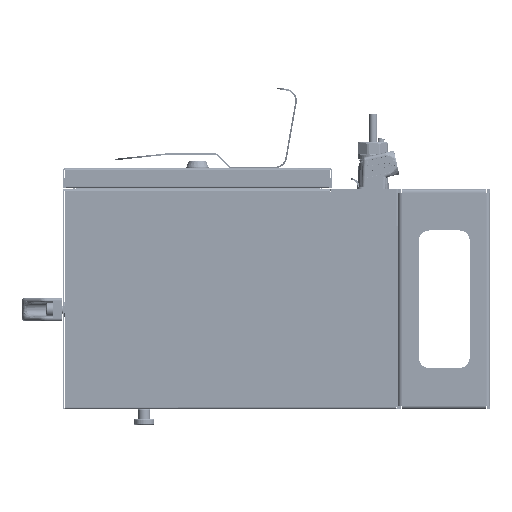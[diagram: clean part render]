
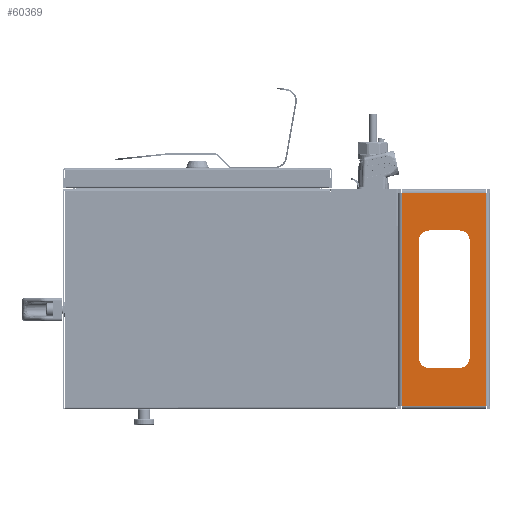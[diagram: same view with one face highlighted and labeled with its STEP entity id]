
A CAD part, left-side view. The second image highlights one B-rep face of the part: STEP entity #60369.
In plain terms, the highlighted planar face has unit normal (-1, 0, 0) as drawn and (0, 0, -1) by its records, which use the part's own axes.
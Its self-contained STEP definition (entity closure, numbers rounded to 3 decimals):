
#49031 = CARTESIAN_POINT ( 'NONE',  ( 41.263, -104.513, -3. ) ) ;
#52865 = EDGE_CURVE ( 'NONE', #601367, #147897, #937884, .T. ) ;
#55541 = EDGE_CURVE ( 'NONE', #809502, #767733, #838213, .T. ) ;
#60369 = ADVANCED_FACE ( 'NONE', ( #452358, #977489 ), #682407, .F. ) ;
#70193 = CARTESIAN_POINT ( 'NONE',  ( -41.263, -108.25, -3. ) ) ;
#72679 = ORIENTED_EDGE ( 'NONE', *, *, #573874, .F. ) ;
#100531 = VERTEX_POINT ( 'NONE', #49031 ) ;
#101820 = ORIENTED_EDGE ( 'NONE', *, *, #55541, .F. ) ;
#105027 = LINE ( 'NONE', #559774, #137494 ) ;
#127798 = CARTESIAN_POINT ( 'NONE',  ( 0., 0., -3. ) ) ;
#127876 = ORIENTED_EDGE ( 'NONE', *, *, #246848, .F. ) ;
#135776 = AXIS2_PLACEMENT_3D ( 'NONE', #225513, #235370, #455385 ) ;
#137494 = VECTOR ( 'NONE', #935028, 1000. ) ;
#137771 = DIRECTION ( 'NONE',  ( 1., 0., 0. ) ) ;
#147897 = VERTEX_POINT ( 'NONE', #727533 ) ;
#149771 = DIRECTION ( 'NONE',  ( 0., 0., -1. ) ) ;
#161530 = EDGE_CURVE ( 'NONE', #819111, #511975, #220683, .T. ) ;
#163551 = AXIS2_PLACEMENT_3D ( 'NONE', #885763, #215709, #430787 ) ;
#171026 = VECTOR ( 'NONE', #497476, 1000. ) ;
#174954 = ORIENTED_EDGE ( 'NONE', *, *, #209005, .F. ) ;
#192644 = CARTESIAN_POINT ( 'NONE',  ( -15., -67.5, -3. ) ) ;
#205192 = CARTESIAN_POINT ( 'NONE',  ( 25., -57.5, -3. ) ) ;
#206589 = VECTOR ( 'NONE', #908288, 1000. ) ;
#209005 = EDGE_CURVE ( 'NONE', #977369, #212436, #975665, .T. ) ;
#212436 = VERTEX_POINT ( 'NONE', #687630 ) ;
#215709 = DIRECTION ( 'NONE',  ( 0., 0., -1. ) ) ;
#219800 = VECTOR ( 'NONE', #900587, 1000. ) ;
#220683 = LINE ( 'NONE', #600549, #663633 ) ;
#221117 = CIRCLE ( 'NONE', #539989, 10. ) ;
#225513 = CARTESIAN_POINT ( 'NONE',  ( -15., -57.5, -3. ) ) ;
#235370 = DIRECTION ( 'NONE',  ( 0., 0., -1. ) ) ;
#244312 = ORIENTED_EDGE ( 'NONE', *, *, #875112, .T. ) ;
#246848 = EDGE_CURVE ( 'NONE', #954617, #977369, #221117, .T. ) ;
#261105 = CARTESIAN_POINT ( 'NONE',  ( 41.263, 104.513, -3. ) ) ;
#280303 = ORIENTED_EDGE ( 'NONE', *, *, #443557, .T. ) ;
#295812 = DIRECTION ( 'NONE',  ( 1., 0., 0. ) ) ;
#302088 = DIRECTION ( 'NONE',  ( -1., 0., 0. ) ) ;
#303421 = CARTESIAN_POINT ( 'NONE',  ( 25., -57.5, -3. ) ) ;
#304969 = DIRECTION ( 'NONE',  ( 0., 1., 0. ) ) ;
#319365 = CARTESIAN_POINT ( 'NONE',  ( 15., -57.5, -3. ) ) ;
#351501 = ORIENTED_EDGE ( 'NONE', *, *, #52865, .F. ) ;
#430787 = DIRECTION ( 'NONE',  ( -1., 0., 0. ) ) ;
#438874 = CIRCLE ( 'NONE', #135776, 10. ) ;
#439826 = EDGE_LOOP ( 'NONE', ( #351501, #654892, #101820, #804855, #174954, #127876, #479730, #72679 ) ) ;
#439998 = LINE ( 'NONE', #70193, #974178 ) ;
#443557 = EDGE_CURVE ( 'NONE', #863463, #819111, #439998, .T. ) ;
#450326 = CIRCLE ( 'NONE', #163551, 10. ) ;
#452358 = FACE_BOUND ( 'NONE', #439826, .T. ) ;
#453332 = EDGE_CURVE ( 'NONE', #212436, #809502, #450326, .T. ) ;
#455385 = DIRECTION ( 'NONE',  ( -1., 0., 0. ) ) ;
#479730 = ORIENTED_EDGE ( 'NONE', *, *, #811924, .F. ) ;
#497476 = DIRECTION ( 'NONE',  ( -1., 0., 0. ) ) ;
#497653 = CARTESIAN_POINT ( 'NONE',  ( -25., -57.5, -3. ) ) ;
#507060 = LINE ( 'NONE', #511980, #544416 ) ;
#511975 = VERTEX_POINT ( 'NONE', #261105 ) ;
#511980 = CARTESIAN_POINT ( 'NONE',  ( -25., -57.5, -3. ) ) ;
#539989 = AXIS2_PLACEMENT_3D ( 'NONE', #546617, #951244, #571150 ) ;
#540401 = CARTESIAN_POINT ( 'NONE',  ( 25., 57.5, -3. ) ) ;
#544416 = VECTOR ( 'NONE', #732105, 1000. ) ;
#546617 = CARTESIAN_POINT ( 'NONE',  ( -15., 57.5, -3. ) ) ;
#559774 = CARTESIAN_POINT ( 'NONE',  ( 41.263, 108.25, -3. ) ) ;
#568030 = EDGE_LOOP ( 'NONE', ( #969656, #628917, #244312, #280303 ) ) ;
#571150 = DIRECTION ( 'NONE',  ( -1., 0., 0. ) ) ;
#573874 = EDGE_CURVE ( 'NONE', #147897, #717092, #438874, .T. ) ;
#578836 = CARTESIAN_POINT ( 'NONE',  ( 15., -67.5, -3. ) ) ;
#585443 = AXIS2_PLACEMENT_3D ( 'NONE', #319365, #149771, #694417 ) ;
#589812 = EDGE_CURVE ( 'NONE', #511975, #100531, #105027, .T. ) ;
#600549 = CARTESIAN_POINT ( 'NONE',  ( -41.263, 104.513, -3. ) ) ;
#601367 = VERTEX_POINT ( 'NONE', #578836 ) ;
#604835 = CARTESIAN_POINT ( 'NONE',  ( -41.263, -104.513, -3. ) ) ;
#628917 = ORIENTED_EDGE ( 'NONE', *, *, #589812, .T. ) ;
#654892 = ORIENTED_EDGE ( 'NONE', *, *, #827485, .F. ) ;
#663633 = VECTOR ( 'NONE', #295812, 1000. ) ;
#668240 = CARTESIAN_POINT ( 'NONE',  ( -25., 57.5, -3. ) ) ;
#681985 = LINE ( 'NONE', #986902, #724843 ) ;
#682407 = PLANE ( 'NONE',  #759568 ) ;
#685577 = CARTESIAN_POINT ( 'NONE',  ( -41.263, 104.513, -3. ) ) ;
#687630 = CARTESIAN_POINT ( 'NONE',  ( 15., 67.5, -3. ) ) ;
#694417 = DIRECTION ( 'NONE',  ( -1., 0., 0. ) ) ;
#717092 = VERTEX_POINT ( 'NONE', #497653 ) ;
#724843 = VECTOR ( 'NONE', #302088, 1000. ) ;
#727533 = CARTESIAN_POINT ( 'NONE',  ( -15., -67.5, -3. ) ) ;
#732105 = DIRECTION ( 'NONE',  ( 0., 1., 0. ) ) ;
#758604 = CARTESIAN_POINT ( 'NONE',  ( -15., 67.5, -3. ) ) ;
#759568 = AXIS2_PLACEMENT_3D ( 'NONE', #127798, #827396, #137771 ) ;
#761131 = CIRCLE ( 'NONE', #585443, 10. ) ;
#767733 = VERTEX_POINT ( 'NONE', #205192 ) ;
#804855 = ORIENTED_EDGE ( 'NONE', *, *, #453332, .F. ) ;
#809502 = VERTEX_POINT ( 'NONE', #540401 ) ;
#811924 = EDGE_CURVE ( 'NONE', #717092, #954617, #507060, .T. ) ;
#819111 = VERTEX_POINT ( 'NONE', #685577 ) ;
#827396 = DIRECTION ( 'NONE',  ( 0., 0., 1. ) ) ;
#827485 = EDGE_CURVE ( 'NONE', #767733, #601367, #761131, .T. ) ;
#838213 = LINE ( 'NONE', #303421, #206589 ) ;
#840373 = CARTESIAN_POINT ( 'NONE',  ( -15., 67.5, -3. ) ) ;
#863463 = VERTEX_POINT ( 'NONE', #604835 ) ;
#875112 = EDGE_CURVE ( 'NONE', #100531, #863463, #681985, .T. ) ;
#885763 = CARTESIAN_POINT ( 'NONE',  ( 15., 57.5, -3. ) ) ;
#900587 = DIRECTION ( 'NONE',  ( 1., 0., 0. ) ) ;
#908288 = DIRECTION ( 'NONE',  ( 0., -1., 0. ) ) ;
#935028 = DIRECTION ( 'NONE',  ( 0., -1., 0. ) ) ;
#937884 = LINE ( 'NONE', #192644, #171026 ) ;
#951244 = DIRECTION ( 'NONE',  ( 0., 0., -1. ) ) ;
#954617 = VERTEX_POINT ( 'NONE', #668240 ) ;
#969656 = ORIENTED_EDGE ( 'NONE', *, *, #161530, .T. ) ;
#974178 = VECTOR ( 'NONE', #304969, 1000. ) ;
#975665 = LINE ( 'NONE', #840373, #219800 ) ;
#977369 = VERTEX_POINT ( 'NONE', #758604 ) ;
#977489 = FACE_OUTER_BOUND ( 'NONE', #568030, .T. ) ;
#986902 = CARTESIAN_POINT ( 'NONE',  ( 41.263, -104.513, -3. ) ) ;
